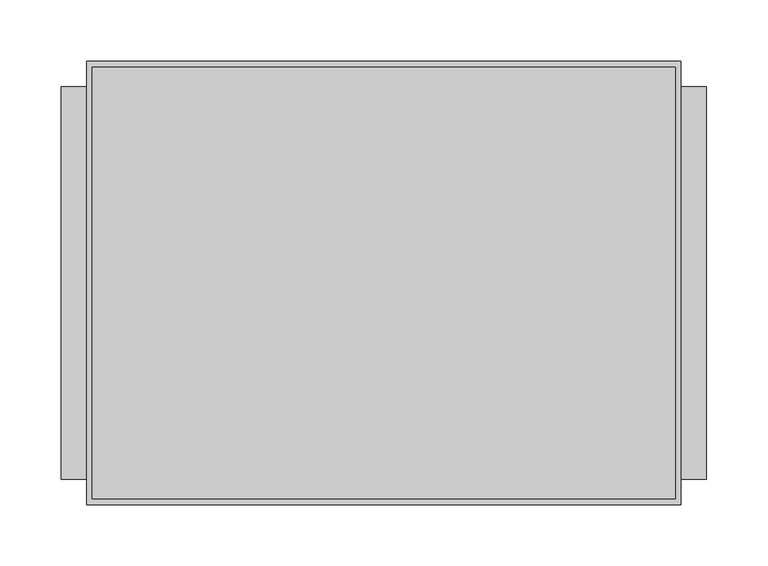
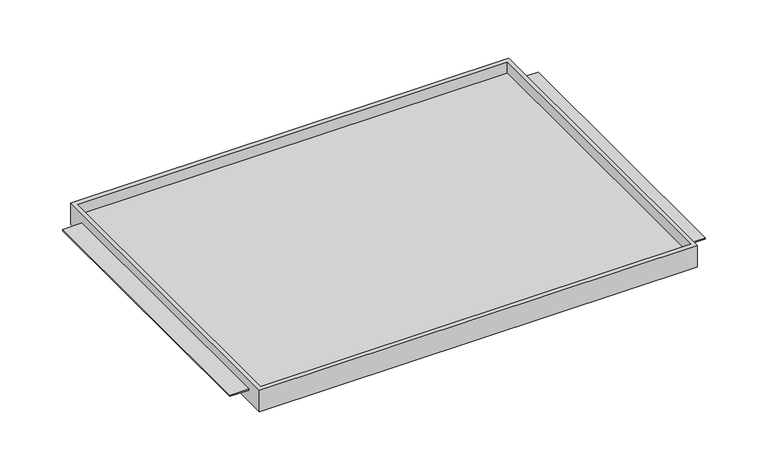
"""IFC4 building model written with IfcOpenShell, lengths in millimetres: furniture geometry."""

from ifc_helpers import new_model, si_unit, origin, place, context, project, spatial, faceted_brep, source, transform, mapped, element, save


def furniture_a066baf2(model_context):
    return source(origin(), model_context, "Body", "Brep", [
        faceted_brep([(-242.7689646, -180.975, 1221.58252), (242.7689646, -180.975, 1221.58252), (242.7689646, -180.975, 1246.98252), (-242.7689646, -180.975, 1246.98252), (-242.7689646, 180.975, 1221.58252), (-242.7689646, 180.975, 1246.98252), (242.7689646, 180.975, 1246.98252), (242.7689646, 180.975, 1221.58252), (242.7689646, -160.3374879, 1235.88272), (242.7689646, 160.3374879, 1235.88272), (242.7689646, 160.3374879, 1234.28252), (242.7689646, -160.3374879, 1234.28252), (238.125, -176.2125, 1246.98252), (-238.125, -176.2125, 1246.98252), (-238.125, 175.91278, 1246.98252), (238.125, 175.91278, 1246.98252), (-242.7689646, 160.3374879, 1235.88272), (-242.7689646, -160.3374879, 1235.88272), (-242.7689646, -160.3374879, 1234.28252), (-242.7689646, 160.3374879, 1234.28252), (-238.125, -176.2125, 1234.28252), (238.125, -176.2125, 1234.28252), (238.125, 175.91278, 1234.28252), (-238.125, 175.91278, 1234.28252), (-263.525, 160.3374879, 1235.88272), (-263.525, -160.3374879, 1235.88272), (263.525, -160.3374879, 1235.88272), (263.525, 160.3374879, 1235.88272), (-263.525, -160.3374879, 1234.28252), (-263.525, 160.3374879, 1234.28252), (263.525, -160.3374879, 1234.28252), (263.525, 160.3374879, 1234.28252)], [[[0, 1, 2, 3]], [[4, 5, 6, 7]], [[1, 0, 4, 7]], [[2, 1, 7, 6], [8, 9, 10, 11]], [[3, 2, 6, 5], [12, 13, 14, 15]], [[0, 3, 5, 4], [16, 17, 18, 19]], [[20, 21, 22, 23]], [[21, 20, 13, 12]], [[22, 21, 12, 15]], [[23, 22, 15, 14]], [[20, 23, 14, 13]], [[16, 24, 25, 17]], [[26, 27, 9, 8]], [[18, 28, 29, 19]], [[30, 11, 10, 31]], [[24, 16, 19, 29]], [[25, 24, 29, 28]], [[17, 25, 28, 18]], [[27, 26, 30, 31]], [[9, 27, 31, 10]], [[26, 8, 11, 30]]]),
    ])


if __name__ == "__main__":
    model = new_model("IFC4")
    model_context = context("Model", 3, world=origin())
    ifc_project = project(units=[si_unit("LENGTHUNIT", "METRE", prefix="MILLI")], contexts=[model_context])
    site = spatial("IfcSite", under=ifc_project)
    building = spatial("IfcBuilding", under=site)
    placement = place(None, origin())
    furniture_shape = furniture_a066baf2(model_context)
    element("IfcFurniture", 1, ObjectType="HermanMiller_CoStruc_CO203_CTrayShelf : 14\"D x 20\"W", at=placement, inside=building, context=model_context, shape_type="MappedRepresentation", body=[
        mapped(furniture_shape, transform((0.0, 0.0, 0.0), x_axis=(1.0, 0.0, 0.0), y_axis=(0.0, 1.0, 0.0), z_axis=(0.0, 0.0, 1.0))),
    ])
    save(model, "model.ifc")
